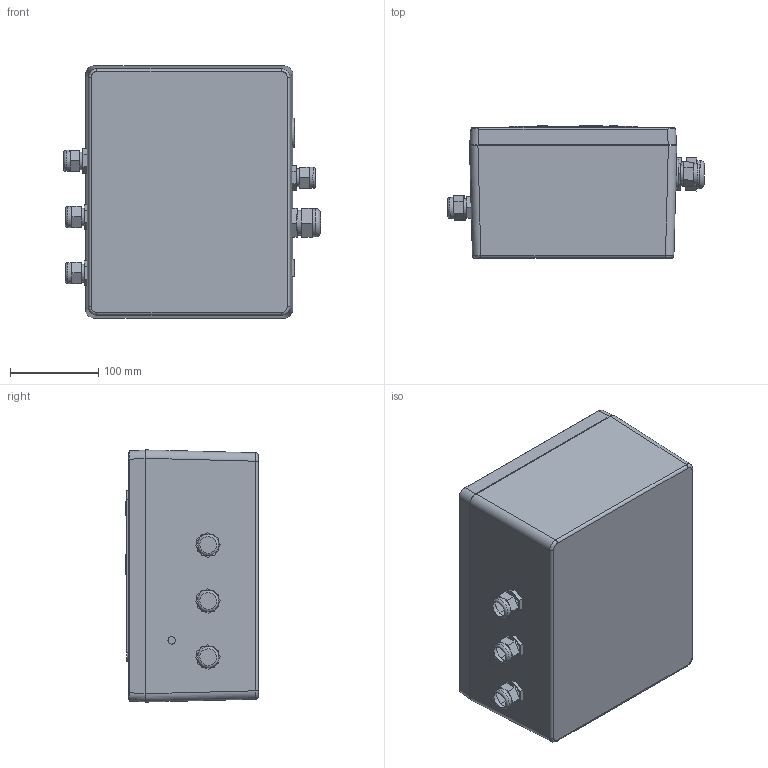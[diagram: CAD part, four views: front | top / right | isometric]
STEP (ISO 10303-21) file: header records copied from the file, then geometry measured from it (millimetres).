
FILE_DESCRIPTION((''),'2;1');
FILE_NAME('C:\Users\pkb9030\Desktop\H2600210003 MAIN,ENCLOSURE, HORIZON SEAFARI, 1 PHASE_Substitute_1.stp','2013-10-31T22:53:28',('PKB9030'),(''),'Autodesk Inventor 2013','Autodesk Inventor 2013','');
FILE_SCHEMA(('AUTOMOTIVE_DESIGN { 1 0 10303 214 1 1 1 1 }'));
Length unit declared in the file: inch
Products named in the file (1): H2600210003 MAIN,ENCLOSURE, HORIZON SEAFARI, 1 PHASE_Substitute_1
Bounding box: 290.88 x 149.66 x 285.26 mm (x, y, z)
Surface area: 464456.6 mm2 (no closed solid volume)
Topology: 0 solids, 35 shells, 175 faces, 481 edges, 332 vertices
Faces by surface type: plane 130, cylinder 30, bspline 8, torus 6, cone 1
Full cylindrical faces by diameter (mm): 20.142 x4, 21.336 x1, 22.86 x1, 23.901 x4, 27.94 x1, 29.21 x1, 29.464 x1, 31.75 x1
Entity records: 6239 total; most frequent: CARTESIAN_POINT 1552, DIRECTION 890, ORIENTED_EDGE 766, EDGE_CURVE 455, VERTEX_POINT 327, VECTOR 324, LINE 324, AXIS2_PLACEMENT_3D 283
